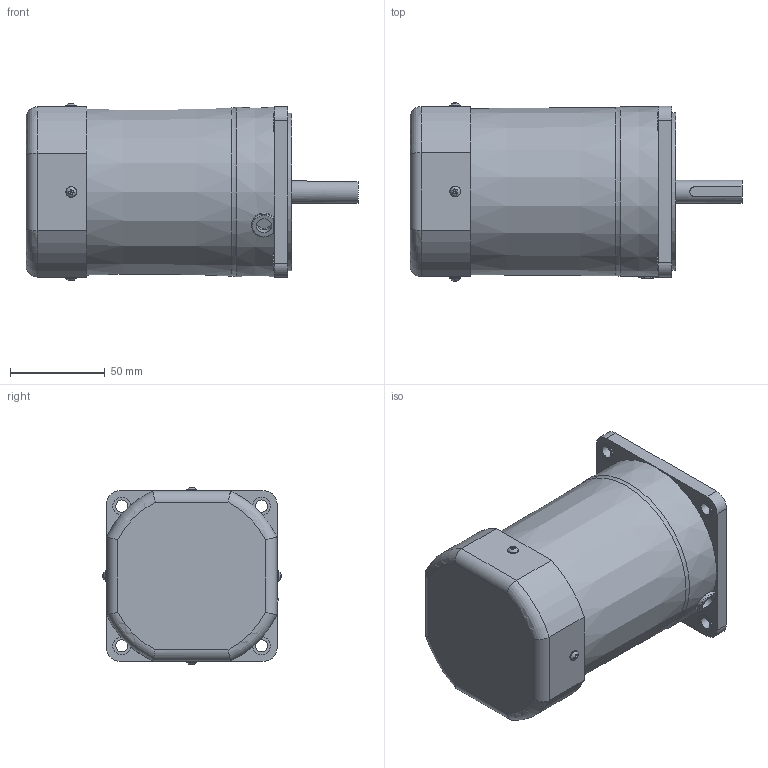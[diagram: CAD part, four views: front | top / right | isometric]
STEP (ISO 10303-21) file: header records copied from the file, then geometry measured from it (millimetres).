
FILE_DESCRIPTION((''),'2;1');
FILE_NAME('D:\STP파일\90W MOTOR\S9I90K.stp','2013-05-20T18:16:56',('leebh'),(''),'Autodesk Inventor 2011','Autodesk Inventor 2011','');
FILE_SCHEMA(('AUTOMOTIVE_DESIGN { 1 0 10303 214 1 1 1 1 }'));
Length unit declared in the file: millimetre
Products named in the file (1): 부품1
Bounding box: 174.8 x 93.94 x 93.51 mm (x, y, z)
Volume: 883922.3 mm3; surface area: 62214.9 mm2
Topology: 1 solids, 3 shells, 184 faces, 443 edges, 287 vertices
Faces by surface type: plane 110, cylinder 50, torus 14, cone 6, bspline 4
Full cylindrical faces by diameter (mm): 3 x4, 3.5 x4, 5.6 x4, 6.5 x4, 8 x1, 9.5 x4, 10 x1, 12 x1, 40 x1, 83 x1
Entity records: 5606 total; most frequent: CARTESIAN_POINT 1455, DIRECTION 803, ORIENTED_EDGE 778, EDGE_CURVE 389, AXIS2_PLACEMENT_3D 296, VERTEX_POINT 278, EDGE_LOOP 263, VECTOR 211
